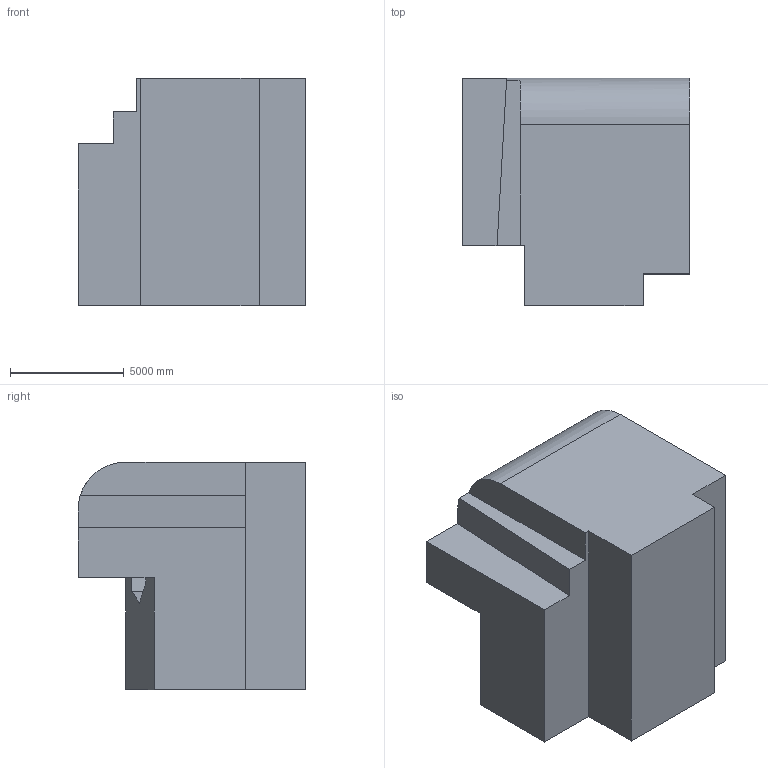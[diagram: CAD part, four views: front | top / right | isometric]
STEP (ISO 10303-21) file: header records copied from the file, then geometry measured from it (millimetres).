
FILE_DESCRIPTION (( 'STEP AP203' ), '1' );
FILE_NAME ('684.STEP', '2022-07-29T12:30:48', ( 'user' ), ( '' ), 'SwSTEP 2.0', 'SolidWorks 2021', '' );
FILE_SCHEMA (( 'CONFIG_CONTROL_DESIGN' ));
Length unit declared in the file: centimetre
Products named in the file (1): 684
Bounding box: 10000 x 10000 x 10000 mm (x, y, z)
Volume: 695432654135.3 mm3; surface area: 547940910.9 mm2
Topology: 1 solids, 1 shells, 26 faces, 72 edges, 48 vertices
Faces by surface type: plane 25, cylinder 1
Entity records: 895 total; most frequent: CARTESIAN_POINT 150, ORIENTED_EDGE 144, DIRECTION 127, EDGE_CURVE 72, LINE 69, VECTOR 69, VERTEX_POINT 48, AXIS2_PLACEMENT_3D 29
